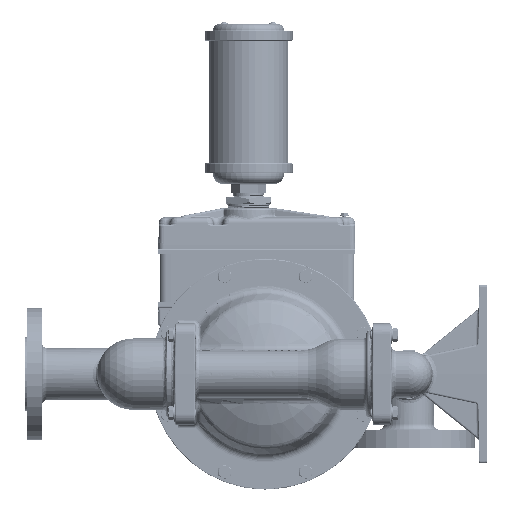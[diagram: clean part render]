
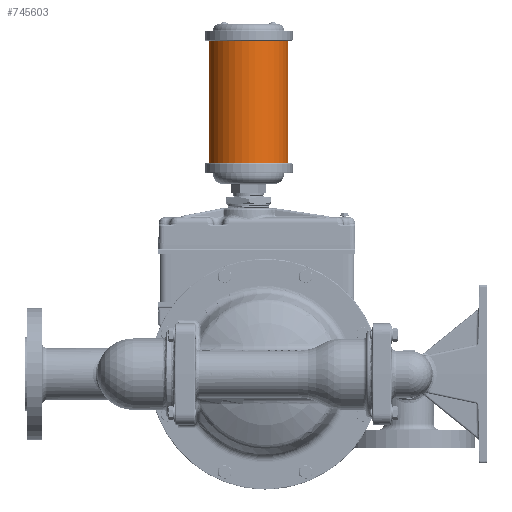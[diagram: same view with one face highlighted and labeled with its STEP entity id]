
A CAD part, left-side view. The second image highlights one B-rep face of the part: STEP entity #745603.
In plain terms, the highlighted cylindrical face has radius 45.339 mm (diameter 90.678 mm), a partial arc.
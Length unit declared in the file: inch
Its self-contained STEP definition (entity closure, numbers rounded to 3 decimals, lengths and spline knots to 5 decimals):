
#145581=DIRECTION('',(0.,0.,1.));
#145582=VECTOR('',#145581,5.5);
#145583=CARTESIAN_POINT('',(0.,2.535,9.47));
#145584=LINE('',#145583,#145582);
#145585=DIRECTION('',(0.,0.,1.));
#145586=VECTOR('',#145585,5.5);
#145587=CARTESIAN_POINT('',(0.,-1.035,9.47));
#145588=LINE('',#145587,#145586);
#145589=CARTESIAN_POINT('',(0.,0.75,9.47));
#145590=DIRECTION('',(0.,0.,1.));
#145591=DIRECTION('',(0.,1.,0.));
#145592=AXIS2_PLACEMENT_3D('',#145589,#145590,#145591);
#145614=CARTESIAN_POINT('',(0.,0.75,14.97));
#145615=DIRECTION('',(0.,0.,1.));
#145616=DIRECTION('',(0.,1.,0.));
#145617=AXIS2_PLACEMENT_3D('',#145614,#145615,#145616);
#617060=CARTESIAN_POINT('',(0.,2.535,9.47));
#617061=CARTESIAN_POINT('',(0.,2.535,14.97));
#617062=VERTEX_POINT('',#617060);
#617063=VERTEX_POINT('',#617061);
#617064=CARTESIAN_POINT('',(0.,-1.035,9.47));
#617065=CARTESIAN_POINT('',(0.,-1.035,14.97));
#617066=VERTEX_POINT('',#617064);
#617067=VERTEX_POINT('',#617065);
#745589=CARTESIAN_POINT('',(0.,0.75,16.079));
#745590=DIRECTION('',(0.,0.,-1.));
#745591=DIRECTION('',(0.,-1.,0.));
#745592=AXIS2_PLACEMENT_3D('',#745589,#745590,#745591);
#745593=CYLINDRICAL_SURFACE('',#745592,1.785);
#745595=ORIENTED_EDGE('',*,*,#745594,.T.);
#745597=ORIENTED_EDGE('',*,*,#745596,.T.);
#745599=ORIENTED_EDGE('',*,*,#745598,.F.);
#745600=ORIENTED_EDGE('',*,*,#745570,.F.);
#745601=EDGE_LOOP('',(#745595,#745597,#745599,#745600));
#745602=FACE_OUTER_BOUND('',#745601,.F.);
#745603=ADVANCED_FACE('',(#745602),#745593,.T.);
#145593=CIRCLE('',#145592,1.785);
#145618=CIRCLE('',#145617,1.785);
#745570=EDGE_CURVE('',#617062,#617066,#145593,.T.);
#745594=EDGE_CURVE('',#617062,#617063,#145584,.T.);
#745596=EDGE_CURVE('',#617063,#617067,#145618,.T.);
#745598=EDGE_CURVE('',#617066,#617067,#145588,.T.);
